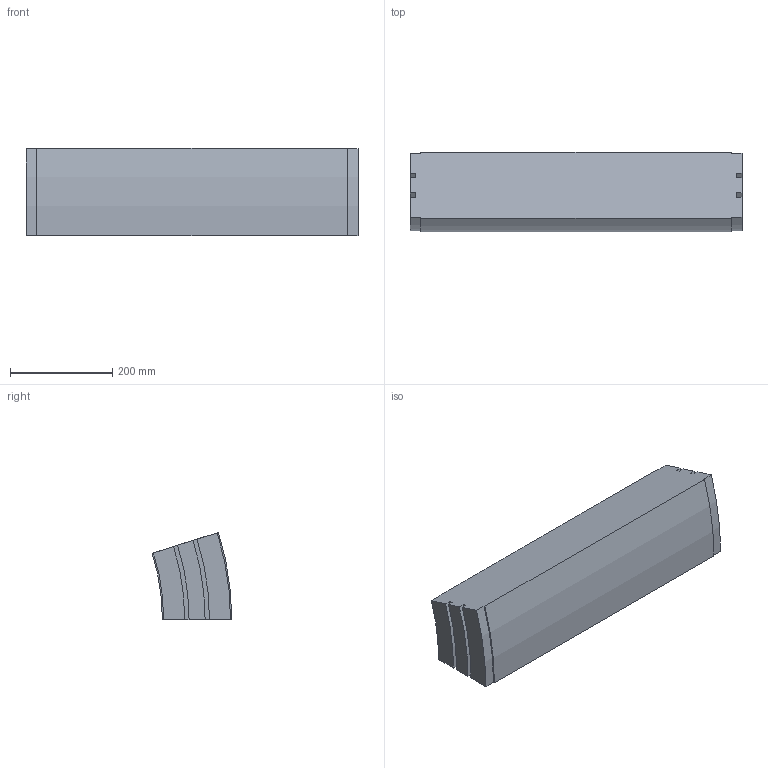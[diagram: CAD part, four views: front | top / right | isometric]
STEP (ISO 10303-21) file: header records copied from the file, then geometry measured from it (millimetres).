
FILE_DESCRIPTION (( 'STEP AP214' ), '1' );
FILE_NAME ('02.150V17.650.N FS-650-MTC-150 Bocht verticaal 17,5°.STEP', '2013-03-29T13:22:53', ( 'Gebruiker' ), ( '' ), 'SwSTEP 2.0', 'SolidWorks 2012', '' );
FILE_SCHEMA (( 'AUTOMOTIVE_DESIGN' ));
Length unit declared in the file: millimetre
Products named in the file (1): 02.150V17.650.N FS-650-MTC-150 Bocht verticaal 17,5°
Bounding box: 650.5 x 155.99 x 170.8 mm (x, y, z)
Volume: 13421320.1 mm3; surface area: 429429.8 mm2
Topology: 1 solids, 1 shells, 30 faces, 84 edges, 56 vertices
Faces by surface type: plane 16, cylinder 14
Entity records: 1010 total; most frequent: DIRECTION 174, CARTESIAN_POINT 171, ORIENTED_EDGE 168, EDGE_CURVE 84, AXIS2_PLACEMENT_3D 59, VECTOR 56, LINE 56, VERTEX_POINT 56
